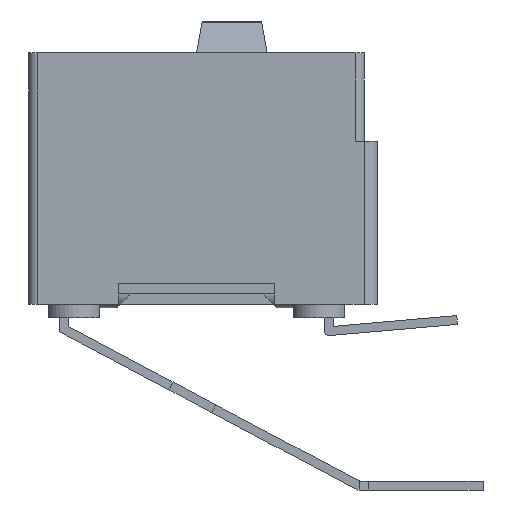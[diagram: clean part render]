
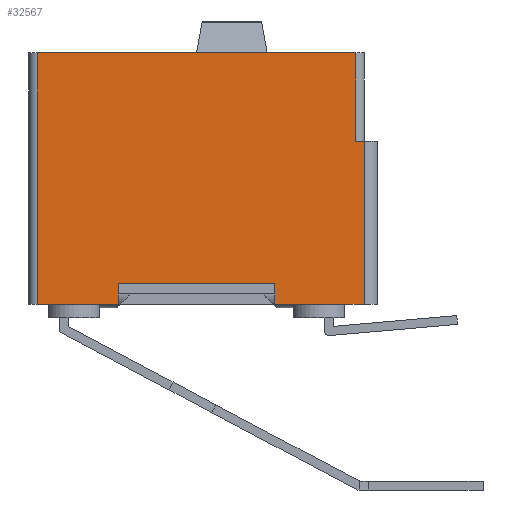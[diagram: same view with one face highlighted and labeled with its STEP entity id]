
A CAD part, left-side view. The second image highlights one B-rep face of the part: STEP entity #32567.
In plain terms, the highlighted planar face has unit normal (-1, 0, 0).
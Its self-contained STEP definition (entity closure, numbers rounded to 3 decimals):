
#298 = VECTOR ( 'NONE', #24427, 1000. ) ;
#439 = CARTESIAN_POINT ( 'NONE',  ( 0., -7.076, -6.639 ) ) ;
#968 = CARTESIAN_POINT ( 'NONE',  ( 0., -2.576, -6.639 ) ) ;
#1516 = ORIENTED_EDGE ( 'NONE', *, *, #11650, .T. ) ;
#2731 = VERTEX_POINT ( 'NONE', #11590 ) ;
#3188 = LINE ( 'NONE', #16700, #14925 ) ;
#3460 = LINE ( 'NONE', #13609, #298 ) ;
#3988 = LINE ( 'NONE', #12155, #14827 ) ;
#4197 = VECTOR ( 'NONE', #5329, 1000. ) ;
#4782 = LINE ( 'NONE', #26422, #4197 ) ;
#5099 = CARTESIAN_POINT ( 'NONE',  ( 0., -2.576, -6.639 ) ) ;
#5268 = ORIENTED_EDGE ( 'NONE', *, *, #30653, .F. ) ;
#5286 = CARTESIAN_POINT ( 'NONE',  ( 0., -2.576, -6.639 ) ) ;
#5329 = DIRECTION ( 'NONE',  ( 0., -1., 0. ) ) ;
#5467 = LINE ( 'NONE', #7955, #13554 ) ;
#6183 = DIRECTION ( 'NONE',  ( 0., 1., 0. ) ) ;
#6370 = LINE ( 'NONE', #6716, #34118 ) ;
#6544 = EDGE_CURVE ( 'NONE', #17432, #7735, #19706, .T. ) ;
#6716 = CARTESIAN_POINT ( 'NONE',  ( 0., -7.076, -6.639 ) ) ;
#7252 = VERTEX_POINT ( 'NONE', #20063 ) ;
#7488 = VERTEX_POINT ( 'NONE', #18596 ) ;
#7735 = VERTEX_POINT ( 'NONE', #28058 ) ;
#7955 = CARTESIAN_POINT ( 'NONE',  ( 0., -0.25, -7.239 ) ) ;
#8108 = VERTEX_POINT ( 'NONE', #439 ) ;
#8116 = EDGE_CURVE ( 'NONE', #7252, #19077, #3460, .T. ) ;
#8814 = LINE ( 'NONE', #968, #21702 ) ;
#9120 = DIRECTION ( 'NONE',  ( -1., 0., 0. ) ) ;
#9306 = CARTESIAN_POINT ( 'NONE',  ( 0., -9.652, -2.54 ) ) ;
#9457 = CARTESIAN_POINT ( 'NONE',  ( 0., -9.402, -7.239 ) ) ;
#10339 = CARTESIAN_POINT ( 'NONE',  ( 0., -7.076, -7.239 ) ) ;
#10500 = ORIENTED_EDGE ( 'NONE', *, *, #13215, .F. ) ;
#10820 = ORIENTED_EDGE ( 'NONE', *, *, #29668, .T. ) ;
#11149 = EDGE_CURVE ( 'NONE', #20035, #14260, #25933, .T. ) ;
#11164 = CARTESIAN_POINT ( 'NONE',  ( 0., -9.402, -2.54 ) ) ;
#11590 = CARTESIAN_POINT ( 'NONE',  ( 0., -0.25, 0. ) ) ;
#11650 = EDGE_CURVE ( 'NONE', #7735, #19760, #4782, .T. ) ;
#11807 = DIRECTION ( 'NONE',  ( 0., 1., 0. ) ) ;
#12155 = CARTESIAN_POINT ( 'NONE',  ( 0., -0.25, 0. ) ) ;
#13215 = EDGE_CURVE ( 'NONE', #7252, #2731, #3188, .T. ) ;
#13245 = CARTESIAN_POINT ( 'NONE',  ( 0., -9.402, -2.54 ) ) ;
#13509 = ORIENTED_EDGE ( 'NONE', *, *, #8116, .T. ) ;
#13534 = EDGE_CURVE ( 'NONE', #16368, #19760, #30792, .T. ) ;
#13554 = VECTOR ( 'NONE', #24623, 1000. ) ;
#13609 = CARTESIAN_POINT ( 'NONE',  ( 0., -0.25, -7.239 ) ) ;
#13687 = DIRECTION ( 'NONE',  ( 0., 0., 1. ) ) ;
#14210 = CARTESIAN_POINT ( 'NONE',  ( 0., -0.25, -7.239 ) ) ;
#14260 = VERTEX_POINT ( 'NONE', #34594 ) ;
#14827 = VECTOR ( 'NONE', #14847, 1000. ) ;
#14847 = DIRECTION ( 'NONE',  ( 0., -1., 0. ) ) ;
#14925 = VECTOR ( 'NONE', #13687, 1000. ) ;
#15247 = CARTESIAN_POINT ( 'NONE',  ( 0., -9.652, -7.239 ) ) ;
#15436 = AXIS2_PLACEMENT_3D ( 'NONE', #25257, #9120, #27756 ) ;
#16368 = VERTEX_POINT ( 'NONE', #29309 ) ;
#16414 = VECTOR ( 'NONE', #20653, 1000. ) ;
#16700 = CARTESIAN_POINT ( 'NONE',  ( 0., -0.25, -7.239 ) ) ;
#16928 = FACE_OUTER_BOUND ( 'NONE', #30001, .T. ) ;
#17011 = LINE ( 'NONE', #11164, #18894 ) ;
#17128 = DIRECTION ( 'NONE',  ( 0., 0., -1. ) ) ;
#17432 = VERTEX_POINT ( 'NONE', #10339 ) ;
#17502 = ORIENTED_EDGE ( 'NONE', *, *, #6544, .T. ) ;
#17538 = DIRECTION ( 'NONE',  ( 0., 0., -1. ) ) ;
#18596 = CARTESIAN_POINT ( 'NONE',  ( 0., -2.576, -7.239 ) ) ;
#18791 = LINE ( 'NONE', #5099, #20374 ) ;
#18894 = VECTOR ( 'NONE', #6183, 1000. ) ;
#19077 = VERTEX_POINT ( 'NONE', #22308 ) ;
#19706 = LINE ( 'NONE', #14210, #34995 ) ;
#19760 = VERTEX_POINT ( 'NONE', #15247 ) ;
#20035 = VERTEX_POINT ( 'NONE', #13245 ) ;
#20063 = CARTESIAN_POINT ( 'NONE',  ( 0., -0.25, -7.239 ) ) ;
#20374 = VECTOR ( 'NONE', #24437, 1000. ) ;
#20653 = DIRECTION ( 'NONE',  ( 0., 0., 1. ) ) ;
#21702 = VECTOR ( 'NONE', #11807, 1000. ) ;
#21827 = ORIENTED_EDGE ( 'NONE', *, *, #13534, .F. ) ;
#22308 = CARTESIAN_POINT ( 'NONE',  ( 0., -1.295, -7.239 ) ) ;
#22332 = ORIENTED_EDGE ( 'NONE', *, *, #11149, .T. ) ;
#23536 = EDGE_CURVE ( 'NONE', #19077, #7488, #5467, .T. ) ;
#24427 = DIRECTION ( 'NONE',  ( 0., -1., 0. ) ) ;
#24437 = DIRECTION ( 'NONE',  ( 0., 0., -1. ) ) ;
#24623 = DIRECTION ( 'NONE',  ( 0., -1., 0. ) ) ;
#25023 = DIRECTION ( 'NONE',  ( 0., -1., 0. ) ) ;
#25257 = CARTESIAN_POINT ( 'NONE',  ( 0., -0.25, -7.239 ) ) ;
#25933 = LINE ( 'NONE', #9457, #16414 ) ;
#26422 = CARTESIAN_POINT ( 'NONE',  ( 0., -0.25, -7.239 ) ) ;
#26452 = ORIENTED_EDGE ( 'NONE', *, *, #28875, .F. ) ;
#27367 = ORIENTED_EDGE ( 'NONE', *, *, #28583, .T. ) ;
#27756 = DIRECTION ( 'NONE',  ( 0., -1., 0. ) ) ;
#28048 = EDGE_CURVE ( 'NONE', #2731, #14260, #3988, .T. ) ;
#28058 = CARTESIAN_POINT ( 'NONE',  ( 0., -8.357, -7.239 ) ) ;
#28442 = ORIENTED_EDGE ( 'NONE', *, *, #23536, .T. ) ;
#28583 = EDGE_CURVE ( 'NONE', #8108, #17432, #6370, .T. ) ;
#28875 = EDGE_CURVE ( 'NONE', #8108, #32200, #8814, .T. ) ;
#29309 = CARTESIAN_POINT ( 'NONE',  ( 0., -9.652, -2.54 ) ) ;
#29668 = EDGE_CURVE ( 'NONE', #16368, #20035, #17011, .T. ) ;
#29947 = ORIENTED_EDGE ( 'NONE', *, *, #28048, .F. ) ;
#30001 = EDGE_LOOP ( 'NONE', ( #5268, #26452, #27367, #17502, #1516, #21827, #10820, #22332, #29947, #10500, #13509, #28442 ) ) ;
#30653 = EDGE_CURVE ( 'NONE', #32200, #7488, #18791, .T. ) ;
#30792 = LINE ( 'NONE', #9306, #33652 ) ;
#30947 = PLANE ( 'NONE',  #15436 ) ;
#32200 = VERTEX_POINT ( 'NONE', #5286 ) ;
#32567 = ADVANCED_FACE ( 'NONE', ( #16928 ), #30947, .T. ) ;
#33652 = VECTOR ( 'NONE', #17128, 1000. ) ;
#34118 = VECTOR ( 'NONE', #17538, 1000. ) ;
#34594 = CARTESIAN_POINT ( 'NONE',  ( 0., -9.402, 0. ) ) ;
#34995 = VECTOR ( 'NONE', #25023, 1000. ) ;
